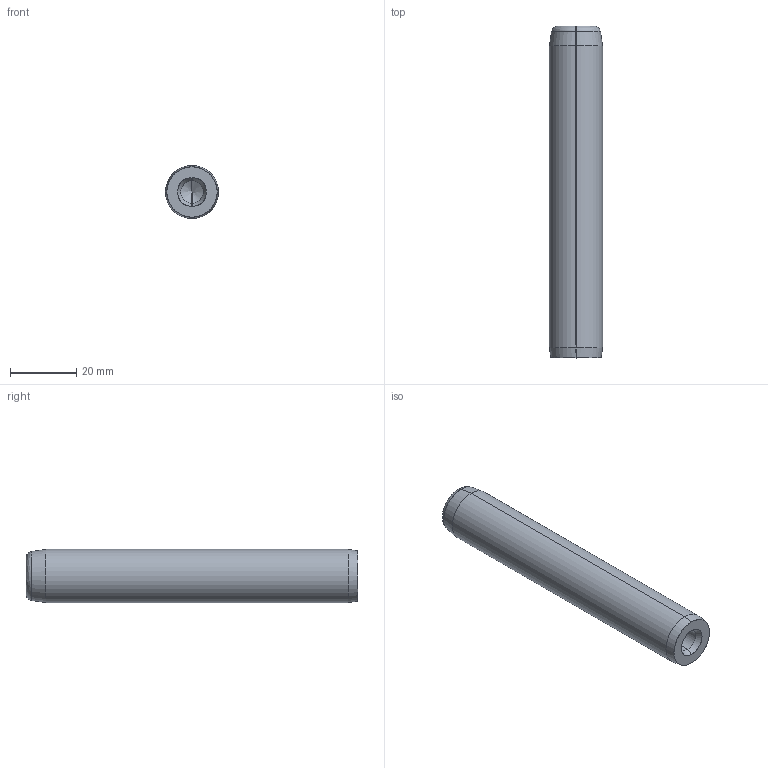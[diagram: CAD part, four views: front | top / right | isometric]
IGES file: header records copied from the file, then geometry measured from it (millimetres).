
Start section: SolidWorks IGES file using analytic representation for surfaces
Global section: file name: C:\Users\Dell\Desktop\deltakont\hatalýlar\D14\Ø16\D14_16100.IGS; native system: SolidWorks 2010; preprocessor: SolidWorks 2010; author: Dell; date: 111225.004959; units: metre
Bounding box: 16 x 100 x 16 mm (x, y, z)
Surface area: 6422.8 mm2 (no closed solid volume)
Topology: 0 solids, 0 shells, 22 faces, 208 edges, 204 vertices
Faces by surface type: revolution 18, bspline 4
